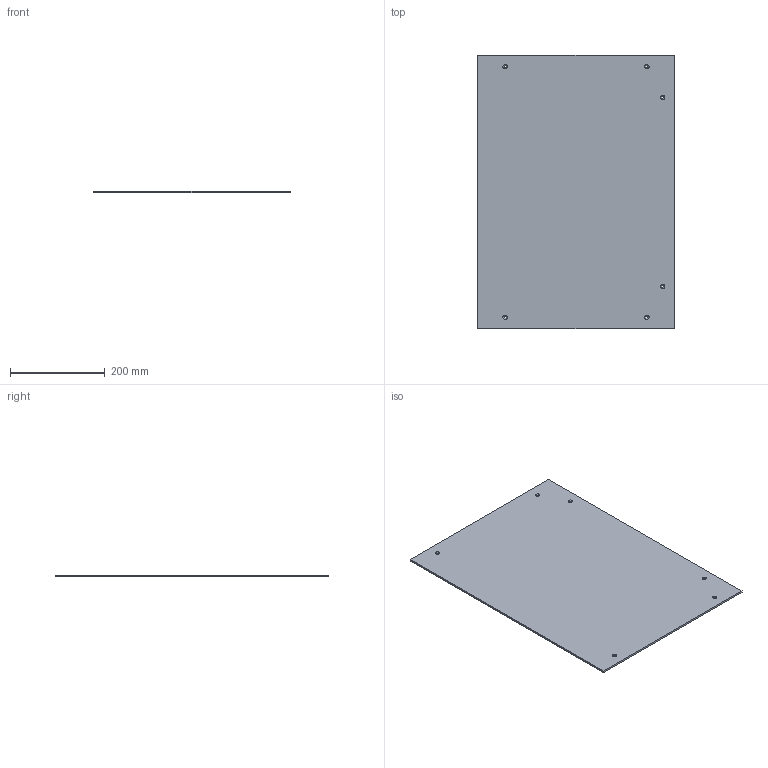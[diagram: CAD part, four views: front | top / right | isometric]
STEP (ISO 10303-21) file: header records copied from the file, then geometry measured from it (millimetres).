
FILE_DESCRIPTION (( 'STEP AP203' ), '1' );
FILE_NAME ('Planche_Déflecteur_Droite.STEP', '2026-06-24T07:29:51', ( '' ), ( '' ), 'SwSTEP 2.0', 'SolidWorks 2024', '' );
FILE_SCHEMA (( 'CONFIG_CONTROL_DESIGN' ));
Length unit declared in the file: millimetre
Products named in the file (1): Planche_Déflecteur_Droite
Bounding box: 415 x 578 x 4 mm (x, y, z)
Volume: 958770 mm3; surface area: 487746.2 mm2
Topology: 1 solids, 1 shells, 18 faces, 48 edges, 32 vertices
Faces by surface type: plane 6, cylinder 6, cone 6
Full cylindrical faces by diameter (mm): 5 x6
Entity records: 555 total; most frequent: DIRECTION 86, CARTESIAN_POINT 75, ORIENTED_EDGE 60, EDGE_LOOP 42, AXIS2_PLACEMENT_3D 37, EDGE_CURVE 30, VERTEX_POINT 26, FACE_OUTER_BOUND 24
